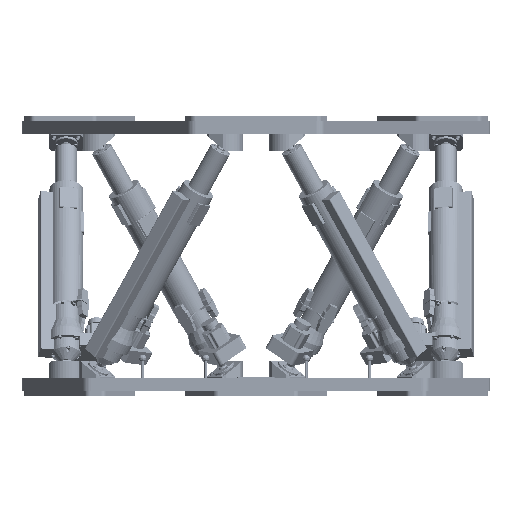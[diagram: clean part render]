
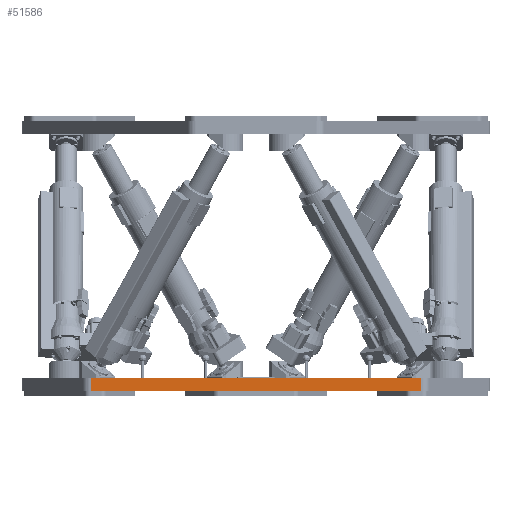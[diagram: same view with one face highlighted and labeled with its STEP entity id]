
A CAD part, left-side view. The second image highlights one B-rep face of the part: STEP entity #51586.
In plain terms, the highlighted planar face has unit normal (-1, 0, 0) as drawn and (1, 0, 0) by its records, which use the part's own axes.
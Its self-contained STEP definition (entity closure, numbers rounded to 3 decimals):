
#1765 = CARTESIAN_POINT ( 'NONE',  ( 466.064, -443.945, -47. ) ) ;
#5004 = CARTESIAN_POINT ( 'NONE',  ( 466.064, 443.945, -47. ) ) ;
#16444 = EDGE_CURVE ( 'NONE', #143515, #139382, #31142, .T. ) ;
#17301 = EDGE_CURVE ( 'NONE', #104141, #143515, #105355, .T. ) ;
#17686 = VERTEX_POINT ( 'NONE', #41085 ) ;
#29110 = ORIENTED_EDGE ( 'NONE', *, *, #16444, .F. ) ;
#31142 = LINE ( 'NONE', #31933, #48570 ) ;
#31846 = CARTESIAN_POINT ( 'NONE',  ( 466.064, -443.945, -47. ) ) ;
#31933 = CARTESIAN_POINT ( 'NONE',  ( 466.064, -443.945, -12. ) ) ;
#32621 = CARTESIAN_POINT ( 'NONE',  ( 466.064, -443.945, -12. ) ) ;
#41085 = CARTESIAN_POINT ( 'NONE',  ( 466.064, 443.945, -47. ) ) ;
#44217 = ORIENTED_EDGE ( 'NONE', *, *, #134187, .T. ) ;
#48570 = VECTOR ( 'NONE', #119876, 1000. ) ;
#48774 = DIRECTION ( 'NONE',  ( 0., 1., 0. ) ) ;
#50400 = PLANE ( 'NONE',  #149216 ) ;
#51586 = ADVANCED_FACE ( 'NONE', ( #113619 ), #50400, .T. ) ;
#52494 = EDGE_LOOP ( 'NONE', ( #29110, #129063, #44217, #131717 ) ) ;
#67485 = VECTOR ( 'NONE', #154580, 1000. ) ;
#69150 = VECTOR ( 'NONE', #105262, 1000. ) ;
#89713 = LINE ( 'NONE', #1765, #67485 ) ;
#90601 = CARTESIAN_POINT ( 'NONE',  ( 466.064, -443.945, -47. ) ) ;
#100497 = DIRECTION ( 'NONE',  ( 1., 0., 0. ) ) ;
#104141 = VERTEX_POINT ( 'NONE', #31846 ) ;
#105262 = DIRECTION ( 'NONE',  ( 0., 0., 1. ) ) ;
#105355 = LINE ( 'NONE', #90601, #114243 ) ;
#112520 = CARTESIAN_POINT ( 'NONE',  ( 466.064, 443.945, -12. ) ) ;
#113619 = FACE_OUTER_BOUND ( 'NONE', #52494, .T. ) ;
#114243 = VECTOR ( 'NONE', #117685, 1000. ) ;
#117685 = DIRECTION ( 'NONE',  ( 0., 0., 1. ) ) ;
#119876 = DIRECTION ( 'NONE',  ( 0., 1., 0. ) ) ;
#129063 = ORIENTED_EDGE ( 'NONE', *, *, #17301, .F. ) ;
#131717 = ORIENTED_EDGE ( 'NONE', *, *, #146670, .T. ) ;
#134187 = EDGE_CURVE ( 'NONE', #104141, #17686, #89713, .T. ) ;
#139382 = VERTEX_POINT ( 'NONE', #112520 ) ;
#143515 = VERTEX_POINT ( 'NONE', #32621 ) ;
#146262 = LINE ( 'NONE', #5004, #69150 ) ;
#146670 = EDGE_CURVE ( 'NONE', #17686, #139382, #146262, .T. ) ;
#149216 = AXIS2_PLACEMENT_3D ( 'NONE', #162124, #100497, #48774 ) ;
#154580 = DIRECTION ( 'NONE',  ( 0., 1., 0. ) ) ;
#162124 = CARTESIAN_POINT ( 'NONE',  ( 466.064, -443.945, -47. ) ) ;
